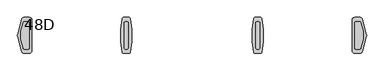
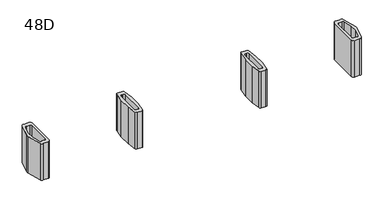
"""IFC4 building model written with IfcOpenShell, lengths in millimetres: furniture geometry, Coalesse_AM_Table_Conference_ETable2_SoftRadiused_22ft_FourBase : 48D."""

from ifc_helpers import new_model, si_unit, frame, origin, place, context, project, spatial, polyline, circle_curve, source, transform, mapped, element, save
from ifc_brep_helpers import plane_surface, cylinder_surface, revolved_surface, advanced_brep


def furniture_48d_12ac701e(model_context):
    return source(origin(), model_context, "Body", "AdvancedBrep", [
        advanced_brep(
        [(1153.31875, 206.375, 3.175), (1127.91875, 231.775, 3.175), (1107.28125, 231.775, 3.175), (1081.88125, 206.375, 3.175), (1081.88125, -206.375, 3.175), (1107.28125, -231.775, 3.175), (1127.91875, -231.775, 3.175), (1153.31875, -206.375, 3.175), (1056.48125, 206.375, 0.0), (1107.28125, 257.175, 0.0), (1127.91875, 257.175, 0.0), (1178.71875, 206.375, 0.0), (1178.71875, -206.375, 0.0), (1127.91875, -257.175, 0.0), (1107.28125, -257.175, 0.0), (1056.48125, -206.375, 0.0), (1056.48125, -206.375, 3.175), (1056.48125, 206.375, 3.175), (1107.28125, -257.175, 3.175), (1127.91875, -257.175, 3.175), (1178.71875, -206.375, 3.175), (1178.71875, 206.375, 3.175), (1127.91875, 257.175, 3.175), (1107.28125, 257.175, 3.175), (1024.9784026, 106.2976848, 698.5), (1024.73125, 102.7629613, 698.5), (1024.73125, -102.7629613, 698.5), (1024.9784026, -106.2976848, 698.5), (1049.8011625, -282.9347235, 698.5), (1074.9540098, -304.8, 698.5), (1160.2459902, -304.8, 698.5), (1185.3988375, -282.9347235, 698.5), (1210.2215974, -106.2976848, 698.5), (1210.46875, -102.7629613, 698.5), (1210.46875, 102.7629613, 698.5), (1210.2215974, 106.2976848, 698.5), (1185.3988375, 282.9347235, 698.5), (1160.2459902, 304.8, 698.5), (1074.9540098, 304.8, 698.5), (1049.8011625, 282.9347235, 698.5), (1127.91875, 231.775, 698.5), (1153.31875, 206.375, 698.5), (1153.31875, -206.375, 698.5), (1127.91875, -231.775, 698.5), (1107.28125, -231.775, 698.5), (1081.88125, -206.375, 698.5), (1081.88125, 206.375, 698.5), (1107.28125, 231.775, 698.5), (1024.9784026, 106.2976848, 3.175), (1049.8011625, 282.9347235, 3.175), (1074.9540098, 304.8, 3.175), (1160.2459902, 304.8, 3.175), (1185.3988375, 282.9347235, 3.175), (1210.2215974, 106.2976848, 3.175), (1210.46875, 102.7629613, 3.175), (1210.46875, -102.7629613, 3.175), (1210.2215974, -106.2976848, 3.175), (1185.3988375, -282.9347235, 3.175), (1160.2459902, -304.8, 3.175), (1074.9540098, -304.8, 3.175), (1049.8011625, -282.9347235, 3.175), (1024.9784026, -106.2976848, 3.175), (1024.73125, -102.7629613, 3.175), (1024.73125, 102.7629613, 3.175)],
        [
            (0, 1, circle_curve(frame((1127.91875, 206.375, 3.175), z_axis=(0.0, 0.0, 1.0), x_axis=(1.0, 0.0, 0.0)), 25.4)),
            (1, 2),
            (2, 3, circle_curve(frame((1107.28125, 206.375, 3.175), z_axis=(0.0, 0.0, 1.0), x_axis=(1.0, 0.0, 0.0)), 25.4)),
            (3, 4),
            (4, 5, circle_curve(frame((1107.28125, -206.375, 3.175), z_axis=(0.0, 0.0, 1.0), x_axis=(1.0, 0.0, 0.0)), 25.4)),
            (5, 6),
            (6, 7, circle_curve(frame((1127.91875, -206.375, 3.175), z_axis=(0.0, 0.0, 1.0), x_axis=(1.0, 0.0, 0.0)), 25.4)),
            (7, 0),
            (8, 9, circle_curve(frame((1107.28125, 206.375, 0.0), z_axis=(0.0, 0.0, -1.0), x_axis=(1.0, 0.0, 0.0)), 50.8)),
            (9, 10),
            (10, 11, circle_curve(frame((1127.91875, 206.375, 0.0), z_axis=(0.0, 0.0, -1.0), x_axis=(1.0, 0.0, 0.0)), 50.8)),
            (11, 12),
            (12, 13, circle_curve(frame((1127.91875, -206.375, 0.0), z_axis=(0.0, 0.0, -1.0), x_axis=(1.0, 0.0, 0.0)), 50.8)),
            (13, 14),
            (14, 15, circle_curve(frame((1107.28125, -206.375, 0.0), z_axis=(0.0, 0.0, -1.0), x_axis=(1.0, 0.0, 0.0)), 50.8)),
            (15, 8),
            (15, 16),
            (16, 17),
            (17, 8),
            (14, 18),
            (18, 16, circle_curve(frame((1107.28125, -206.375, 3.175), z_axis=(0.0, 0.0, -1.0), x_axis=(1.0, 0.0, 0.0)), 50.8)),
            (13, 19),
            (19, 18),
            (12, 20),
            (20, 19, circle_curve(frame((1127.91875, -206.375, 3.175), z_axis=(0.0, 0.0, -1.0), x_axis=(1.0, 0.0, 0.0)), 50.8)),
            (11, 21),
            (21, 20),
            (10, 22),
            (22, 21, circle_curve(frame((1127.91875, 206.375, 3.175), z_axis=(0.0, 0.0, -1.0), x_axis=(1.0, 0.0, 0.0)), 50.8)),
            (9, 23),
            (23, 22),
            (17, 23, circle_curve(frame((1107.28125, 206.375, 3.175), z_axis=(0.0, 0.0, -1.0), x_axis=(1.0, 0.0, 0.0)), 50.8)),
            (24, 25, circle_curve(frame((1050.13125, 102.7629613, 698.5), z_axis=(0.0, 0.0, 1.0), x_axis=(1.0, 0.0, 0.0)), 25.4)),
            (25, 26),
            (26, 27, circle_curve(frame((1050.13125, -102.7629613, 698.5), z_axis=(0.0, 0.0, 1.0), x_axis=(1.0, 0.0, 0.0)), 25.4)),
            (27, 28),
            (28, 29, circle_curve(frame((1074.9540098, -279.4, 698.5), z_axis=(0.0, 0.0, 1.0), x_axis=(1.0, 0.0, 0.0)), 25.4)),
            (29, 30),
            (30, 31, circle_curve(frame((1160.2459902, -279.4, 698.5), z_axis=(0.0, 0.0, 1.0), x_axis=(1.0, 0.0, 0.0)), 25.4)),
            (31, 32),
            (32, 33, circle_curve(frame((1185.06875, -102.7629613, 698.5), z_axis=(0.0, 0.0, 1.0), x_axis=(1.0, 0.0, 0.0)), 25.4)),
            (33, 34),
            (34, 35, circle_curve(frame((1185.06875, 102.7629613, 698.5), z_axis=(0.0, 0.0, 1.0), x_axis=(1.0, 0.0, 0.0)), 25.4)),
            (35, 36),
            (36, 37, circle_curve(frame((1160.2459902, 279.4, 698.5), z_axis=(0.0, 0.0, 1.0), x_axis=(1.0, 0.0, 0.0)), 25.4)),
            (37, 38),
            (38, 39, circle_curve(frame((1074.9540098, 279.4, 698.5), z_axis=(0.0, 0.0, 1.0), x_axis=(1.0, 0.0, 0.0)), 25.4)),
            (39, 24),
            (40, 41, circle_curve(frame((1127.91875, 206.375, 698.5), z_axis=(0.0, 0.0, -1.0), x_axis=(1.0, 0.0, 0.0)), 25.4)),
            (41, 42),
            (42, 43, circle_curve(frame((1127.91875, -206.375, 698.5), z_axis=(0.0, 0.0, -1.0), x_axis=(1.0, 0.0, 0.0)), 25.4)),
            (43, 44),
            (44, 45, circle_curve(frame((1107.28125, -206.375, 698.5), z_axis=(0.0, 0.0, -1.0), x_axis=(1.0, 0.0, 0.0)), 25.4)),
            (45, 46),
            (46, 47, circle_curve(frame((1107.28125, 206.375, 698.5), z_axis=(0.0, 0.0, -1.0), x_axis=(1.0, 0.0, 0.0)), 25.4)),
            (47, 40),
            (48, 49),
            (49, 50, circle_curve(frame((1074.9540098, 279.4, 3.175), z_axis=(0.0, 0.0, -1.0), x_axis=(1.0, 0.0, 0.0)), 25.4)),
            (50, 51),
            (51, 52, circle_curve(frame((1160.2459902, 279.4, 3.175), z_axis=(0.0, 0.0, -1.0), x_axis=(1.0, 0.0, 0.0)), 25.4)),
            (52, 53),
            (53, 54, circle_curve(frame((1185.06875, 102.7629613, 3.175), z_axis=(0.0, 0.0, -1.0), x_axis=(1.0, 0.0, 0.0)), 25.4)),
            (54, 55),
            (55, 56, circle_curve(frame((1185.06875, -102.7629613, 3.175), z_axis=(0.0, 0.0, -1.0), x_axis=(1.0, 0.0, 0.0)), 25.4)),
            (56, 57),
            (57, 58, circle_curve(frame((1160.2459902, -279.4, 3.175), z_axis=(0.0, 0.0, -1.0), x_axis=(1.0, 0.0, 0.0)), 25.4)),
            (58, 59),
            (59, 60, circle_curve(frame((1074.9540098, -279.4, 3.175), z_axis=(0.0, 0.0, -1.0), x_axis=(1.0, 0.0, 0.0)), 25.4)),
            (60, 61),
            (61, 62, circle_curve(frame((1050.13125, -102.7629613, 3.175), z_axis=(0.0, 0.0, -1.0), x_axis=(1.0, 0.0, 0.0)), 25.4)),
            (62, 63),
            (63, 48, circle_curve(frame((1050.13125, 102.7629613, 3.175), z_axis=(0.0, 0.0, -1.0), x_axis=(1.0, 0.0, 0.0)), 25.4)),
            (24, 48),
            (63, 25),
            (62, 26),
            (61, 27),
            (60, 28),
            (59, 29),
            (58, 30),
            (57, 31),
            (56, 32),
            (55, 33),
            (54, 34),
            (53, 35),
            (52, 36),
            (51, 37),
            (50, 38),
            (49, 39),
            (40, 1),
            (0, 41),
            (7, 42),
            (6, 43),
            (5, 44),
            (4, 45),
            (3, 46),
            (2, 47),
        ],
        [
            plane_surface(frame((1056.48125, -206.375, 3.175), z_axis=(0.0, 0.0, 1.0), x_axis=(0.0, -1.0, 0.0))),
            plane_surface(frame((1056.48125, -206.375, 0.0), z_axis=(0.0, 0.0, -1.0), x_axis=(0.0, 1.0, 0.0))),
            plane_surface(frame((1056.48125, 206.375, 3.175), z_axis=(-1.0, 0.0, 0.0), x_axis=(0.0, 0.0, -1.0))),
            cylinder_surface(frame((1107.28125, -206.375, 0.0), z_axis=(0.0, 0.0, 1.0), x_axis=(1.0, 0.0, 0.0)), 50.8),
            plane_surface(frame((1107.28125, -257.175, 3.175), z_axis=(0.0, -1.0, 0.0), x_axis=(0.0, 0.0, -1.0))),
            cylinder_surface(frame((1127.91875, -206.375, 0.0), z_axis=(0.0, 0.0, 1.0), x_axis=(1.0, 0.0, 0.0)), 50.8),
            plane_surface(frame((1178.71875, -206.375, 3.175), z_axis=(1.0, 0.0, 0.0), x_axis=(0.0, 0.0, -1.0))),
            cylinder_surface(frame((1127.91875, 206.375, 0.0), z_axis=(0.0, 0.0, 1.0), x_axis=(1.0, 0.0, 0.0)), 50.8),
            plane_surface(frame((1127.91875, 257.175, 3.175), z_axis=(0.0, 1.0, 0.0), x_axis=(0.0, 0.0, -1.0))),
            cylinder_surface(frame((1107.28125, 206.375, 0.0), z_axis=(0.0, 0.0, 1.0), x_axis=(1.0, 0.0, 0.0)), 50.8),
            plane_surface(frame((1075.53125, 102.7629613, 698.5), z_axis=(0.0, 0.0, 1.0), x_axis=(0.0, 1.0, 0.0))),
            plane_surface(frame((1075.53125, 102.7629613, 3.175), z_axis=(0.0, 0.0, -1.0), x_axis=(0.0, -1.0, 0.0))),
            cylinder_surface(frame((1050.13125, 102.7629613, 3.175), z_axis=(0.0, 0.0, 1.0), x_axis=(1.0, 0.0, 0.0)), 25.4),
            plane_surface(frame((1024.73125, 102.7629613, 698.5), z_axis=(-1.0, 0.0, 0.0), x_axis=(0.0, 0.0, -1.0))),
            cylinder_surface(frame((1050.13125, -102.7629613, 3.175), z_axis=(0.0, 0.0, 1.0), x_axis=(1.0, 0.0, 0.0)), 25.4),
            plane_surface(frame((1024.9784026, -106.2976848, 698.5), z_axis=(-0.9902695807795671, -0.13916234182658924, 0.0), x_axis=(0.0, 0.0, -1.0))),
            cylinder_surface(frame((1074.9540098, -279.4, 3.175), z_axis=(0.0, 0.0, 1.0), x_axis=(1.0, 0.0, 0.0)), 25.4),
            plane_surface(frame((1074.9540098, -304.8, 698.5), z_axis=(0.0, -1.0, 0.0), x_axis=(0.0, 0.0, -1.0))),
            cylinder_surface(frame((1160.2459902, -279.4, 3.175), z_axis=(0.0, 0.0, 1.0), x_axis=(1.0, 0.0, 0.0)), 25.4),
            plane_surface(frame((1185.3988375, -282.9347235, 698.5), z_axis=(0.9902695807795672, -0.13916234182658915, 0.0), x_axis=(0.0, 0.0, -1.0))),
            cylinder_surface(frame((1185.06875, -102.7629613, 3.175), z_axis=(0.0, 0.0, 1.0), x_axis=(1.0, 0.0, 0.0)), 25.4),
            plane_surface(frame((1210.46875, -102.7629613, 698.5), z_axis=(1.0, 0.0, 0.0), x_axis=(0.0, 0.0, -1.0))),
            cylinder_surface(frame((1185.06875, 102.7629613, 3.175), z_axis=(0.0, 0.0, 1.0), x_axis=(1.0, 0.0, 0.0)), 25.4),
            plane_surface(frame((1210.2215974, 106.2976848, 698.5), z_axis=(0.9902695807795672, 0.1391623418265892, 0.0), x_axis=(0.0, 0.0, -1.0))),
            cylinder_surface(frame((1160.2459902, 279.4, 3.175), z_axis=(0.0, 0.0, 1.0), x_axis=(1.0, 0.0, 0.0)), 25.4),
            plane_surface(frame((1160.2459902, 304.8, 698.5), z_axis=(0.0, 1.0, 0.0), x_axis=(0.0, 0.0, -1.0))),
            cylinder_surface(frame((1074.9540098, 279.4, 3.175), z_axis=(0.0, 0.0, 1.0), x_axis=(1.0, 0.0, 0.0)), 25.4),
            plane_surface(frame((1049.8011625, 282.9347235, 698.5), z_axis=(-0.9902695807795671, 0.13916234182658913, 0.0), x_axis=(0.0, 0.0, -1.0))),
            revolved_surface(polyline([(1153.3187500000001, 206.375, 3.175), (1153.3187500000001, 206.375, 698.5)]), (1127.91875, 206.375, 0.0), (0.0, 0.0, -1.0)),
            plane_surface(frame((1153.31875, 206.375, 698.5), z_axis=(-1.0, 0.0, 0.0), x_axis=(0.0, 0.0, -1.0))),
            revolved_surface(polyline([(1153.3187500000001, -206.375, 3.175), (1153.3187500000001, -206.375, 698.5)]), (1127.91875, -206.375, 0.0), (0.0, 0.0, -1.0)),
            plane_surface(frame((1127.91875, -231.775, 698.5), z_axis=(0.0, 1.0, 0.0), x_axis=(0.0, 0.0, -1.0))),
            revolved_surface(polyline([(1132.68125, -206.375, 3.175), (1132.68125, -206.375, 698.5)]), (1107.28125, -206.375, 0.0), (0.0, 0.0, -1.0)),
            plane_surface(frame((1081.88125, -206.375, 698.5), z_axis=(1.0, 0.0, 0.0), x_axis=(0.0, 0.0, -1.0))),
            revolved_surface(polyline([(1132.68125, 206.375, 3.175), (1132.68125, 206.375, 698.5)]), (1107.28125, 206.375, 0.0), (0.0, 0.0, -1.0)),
            plane_surface(frame((1107.28125, 231.775, 698.5), z_axis=(0.0, -1.0, 0.0), x_axis=(0.0, 0.0, -1.0))),
        ],
        [
            (0, [[1, 2, 3, 4, 5, 6, 7, 8]]),
            (1, [[9, 10, 11, 12, 13, 14, 15, 16]]),
            (2, [[-16, 17, 18, 19]]),
            (3, [[-15, 20, 21, -17]]),
            (4, [[-14, 22, 23, -20]]),
            (5, [[-13, 24, 25, -22]]),
            (6, [[-12, 26, 27, -24]]),
            (7, [[-11, 28, 29, -26]]),
            (8, [[-10, 30, 31, -28]]),
            (9, [[-9, -19, 32, -30]]),
            (10, [[33, 34, 35, 36, 37, 38, 39, 40, 41, 42, 43, 44, 45, 46, 47, 48], [49, 50, 51, 52, 53, 54, 55, 56]]),
            (11, [[57, 58, 59, 60, 61, 62, 63, 64, 65, 66, 67, 68, 69, 70, 71, 72], [-18, -21, -23, -25, -27, -29, -31, -32]]),
            (12, [[-33, 73, -72, 74]]),
            (13, [[-34, -74, -71, 75]]),
            (14, [[-35, -75, -70, 76]]),
            (15, [[-36, -76, -69, 77]]),
            (16, [[-37, -77, -68, 78]]),
            (17, [[-38, -78, -67, 79]]),
            (18, [[-39, -79, -66, 80]]),
            (19, [[-40, -80, -65, 81]]),
            (20, [[-41, -81, -64, 82]]),
            (21, [[-42, -82, -63, 83]]),
            (22, [[-43, -83, -62, 84]]),
            (23, [[-44, -84, -61, 85]]),
            (24, [[-45, -85, -60, 86]]),
            (25, [[-46, -86, -59, 87]]),
            (26, [[-47, -87, -58, 88]]),
            (27, [[-48, -88, -57, -73]]),
            (28, [[-49, 89, -1, 90]]),
            (29, [[-50, -90, -8, 91]]),
            (30, [[-51, -91, -7, 92]]),
            (31, [[-52, -92, -6, 93]]),
            (32, [[-53, -93, -5, 94]]),
            (33, [[-54, -94, -4, 95]]),
            (34, [[-55, -95, -3, 96]]),
            (35, [[-56, -96, -2, -89]]),
        ],
    ),
        advanced_brep(
        [(-1081.88125, 206.375, 3.175), (-1107.28125, 231.775, 3.175), (-1127.91875, 231.775, 3.175), (-1153.31875, 206.375, 3.175), (-1153.31875, -206.375, 3.175), (-1127.91875, -231.775, 3.175), (-1107.28125, -231.775, 3.175), (-1081.88125, -206.375, 3.175), (-1178.71875, 206.375, 0.0), (-1127.91875, 257.175, 0.0), (-1107.28125, 257.175, 0.0), (-1056.48125, 206.375, 0.0), (-1056.48125, -206.375, 0.0), (-1107.28125, -257.175, 0.0), (-1127.91875, -257.175, 0.0), (-1178.71875, -206.375, 0.0), (-1178.71875, -206.375, 3.175), (-1178.71875, 206.375, 3.175), (-1127.91875, -257.175, 3.175), (-1107.28125, -257.175, 3.175), (-1056.48125, -206.375, 3.175), (-1056.48125, 206.375, 3.175), (-1107.28125, 257.175, 3.175), (-1127.91875, 257.175, 3.175), (-1210.2215974, 106.2976848, 698.5), (-1210.46875, 102.7629613, 698.5), (-1210.46875, -102.7629613, 698.5), (-1210.2215974, -106.2976848, 698.5), (-1185.3988375, -282.9347235, 698.5), (-1160.2459902, -304.8, 698.5), (-1074.9540098, -304.8, 698.5), (-1049.8011625, -282.9347235, 698.5), (-1024.9784026, -106.2976848, 698.5), (-1024.73125, -102.7629613, 698.5), (-1024.73125, 102.7629613, 698.5), (-1024.9784026, 106.2976848, 698.5), (-1049.8011625, 282.9347235, 698.5), (-1074.9540098, 304.8, 698.5), (-1160.2459902, 304.8, 698.5), (-1185.3988375, 282.9347235, 698.5), (-1107.28125, 231.775, 698.5), (-1081.88125, 206.375, 698.5), (-1081.88125, -206.375, 698.5), (-1107.28125, -231.775, 698.5), (-1127.91875, -231.775, 698.5), (-1153.31875, -206.375, 698.5), (-1153.31875, 206.375, 698.5), (-1127.91875, 231.775, 698.5), (-1210.2215974, 106.2976848, 3.175), (-1185.3988375, 282.9347235, 3.175), (-1160.2459902, 304.8, 3.175), (-1074.9540098, 304.8, 3.175), (-1049.8011625, 282.9347235, 3.175), (-1024.9784026, 106.2976848, 3.175), (-1024.73125, 102.7629613, 3.175), (-1024.73125, -102.7629613, 3.175), (-1024.9784026, -106.2976848, 3.175), (-1049.8011625, -282.9347235, 3.175), (-1074.9540098, -304.8, 3.175), (-1160.2459902, -304.8, 3.175), (-1185.3988375, -282.9347235, 3.175), (-1210.2215974, -106.2976848, 3.175), (-1210.46875, -102.7629613, 3.175), (-1210.46875, 102.7629613, 3.175)],
        [
            (0, 1, circle_curve(frame((-1107.28125, 206.375, 3.175), z_axis=(0.0, 0.0, 1.0), x_axis=(1.0, 0.0, 0.0)), 25.4)),
            (1, 2),
            (2, 3, circle_curve(frame((-1127.91875, 206.375, 3.175), z_axis=(0.0, 0.0, 1.0), x_axis=(1.0, 0.0, 0.0)), 25.4)),
            (3, 4),
            (4, 5, circle_curve(frame((-1127.91875, -206.375, 3.175), z_axis=(0.0, 0.0, 1.0), x_axis=(1.0, 0.0, 0.0)), 25.4)),
            (5, 6),
            (6, 7, circle_curve(frame((-1107.28125, -206.375, 3.175), z_axis=(0.0, 0.0, 1.0), x_axis=(1.0, 0.0, 0.0)), 25.4)),
            (7, 0),
            (8, 9, circle_curve(frame((-1127.91875, 206.375, 0.0), z_axis=(0.0, 0.0, -1.0), x_axis=(1.0, 0.0, 0.0)), 50.8)),
            (9, 10),
            (10, 11, circle_curve(frame((-1107.28125, 206.375, 0.0), z_axis=(0.0, 0.0, -1.0), x_axis=(1.0, 0.0, 0.0)), 50.8)),
            (11, 12),
            (12, 13, circle_curve(frame((-1107.28125, -206.375, 0.0), z_axis=(0.0, 0.0, -1.0), x_axis=(1.0, 0.0, 0.0)), 50.8)),
            (13, 14),
            (14, 15, circle_curve(frame((-1127.91875, -206.375, 0.0), z_axis=(0.0, 0.0, -1.0), x_axis=(1.0, 0.0, 0.0)), 50.8)),
            (15, 8),
            (15, 16),
            (16, 17),
            (17, 8),
            (14, 18),
            (18, 16, circle_curve(frame((-1127.91875, -206.375, 3.175), z_axis=(0.0, 0.0, -1.0), x_axis=(1.0, 0.0, 0.0)), 50.8)),
            (13, 19),
            (19, 18),
            (12, 20),
            (20, 19, circle_curve(frame((-1107.28125, -206.375, 3.175), z_axis=(0.0, 0.0, -1.0), x_axis=(1.0, 0.0, 0.0)), 50.8)),
            (11, 21),
            (21, 20),
            (10, 22),
            (22, 21, circle_curve(frame((-1107.28125, 206.375, 3.175), z_axis=(0.0, 0.0, -1.0), x_axis=(1.0, 0.0, 0.0)), 50.8)),
            (9, 23),
            (23, 22),
            (17, 23, circle_curve(frame((-1127.91875, 206.375, 3.175), z_axis=(0.0, 0.0, -1.0), x_axis=(1.0, 0.0, 0.0)), 50.8)),
            (24, 25, circle_curve(frame((-1185.06875, 102.7629613, 698.5), z_axis=(0.0, 0.0, 1.0), x_axis=(1.0, 0.0, 0.0)), 25.4)),
            (25, 26),
            (26, 27, circle_curve(frame((-1185.06875, -102.7629613, 698.5), z_axis=(0.0, 0.0, 1.0), x_axis=(1.0, 0.0, 0.0)), 25.4)),
            (27, 28),
            (28, 29, circle_curve(frame((-1160.2459902, -279.4, 698.5), z_axis=(0.0, 0.0, 1.0), x_axis=(1.0, 0.0, 0.0)), 25.4)),
            (29, 30),
            (30, 31, circle_curve(frame((-1074.9540098, -279.4, 698.5), z_axis=(0.0, 0.0, 1.0), x_axis=(1.0, 0.0, 0.0)), 25.4)),
            (31, 32),
            (32, 33, circle_curve(frame((-1050.13125, -102.7629613, 698.5), z_axis=(0.0, 0.0, 1.0), x_axis=(1.0, 0.0, 0.0)), 25.4)),
            (33, 34),
            (34, 35, circle_curve(frame((-1050.13125, 102.7629613, 698.5), z_axis=(0.0, 0.0, 1.0), x_axis=(1.0, 0.0, 0.0)), 25.4)),
            (35, 36),
            (36, 37, circle_curve(frame((-1074.9540098, 279.4, 698.5), z_axis=(0.0, 0.0, 1.0), x_axis=(1.0, 0.0, 0.0)), 25.4)),
            (37, 38),
            (38, 39, circle_curve(frame((-1160.2459902, 279.4, 698.5), z_axis=(0.0, 0.0, 1.0), x_axis=(1.0, 0.0, 0.0)), 25.4)),
            (39, 24),
            (40, 41, circle_curve(frame((-1107.28125, 206.375, 698.5), z_axis=(0.0, 0.0, -1.0), x_axis=(1.0, 0.0, 0.0)), 25.4)),
            (41, 42),
            (42, 43, circle_curve(frame((-1107.28125, -206.375, 698.5), z_axis=(0.0, 0.0, -1.0), x_axis=(1.0, 0.0, 0.0)), 25.4)),
            (43, 44),
            (44, 45, circle_curve(frame((-1127.91875, -206.375, 698.5), z_axis=(0.0, 0.0, -1.0), x_axis=(1.0, 0.0, 0.0)), 25.4)),
            (45, 46),
            (46, 47, circle_curve(frame((-1127.91875, 206.375, 698.5), z_axis=(0.0, 0.0, -1.0), x_axis=(1.0, 0.0, 0.0)), 25.4)),
            (47, 40),
            (48, 49),
            (49, 50, circle_curve(frame((-1160.2459902, 279.4, 3.175), z_axis=(0.0, 0.0, -1.0), x_axis=(1.0, 0.0, 0.0)), 25.4)),
            (50, 51),
            (51, 52, circle_curve(frame((-1074.9540098, 279.4, 3.175), z_axis=(0.0, 0.0, -1.0), x_axis=(1.0, 0.0, 0.0)), 25.4)),
            (52, 53),
            (53, 54, circle_curve(frame((-1050.13125, 102.7629613, 3.175), z_axis=(0.0, 0.0, -1.0), x_axis=(1.0, 0.0, 0.0)), 25.4)),
            (54, 55),
            (55, 56, circle_curve(frame((-1050.13125, -102.7629613, 3.175), z_axis=(0.0, 0.0, -1.0), x_axis=(1.0, 0.0, 0.0)), 25.4)),
            (56, 57),
            (57, 58, circle_curve(frame((-1074.9540098, -279.4, 3.175), z_axis=(0.0, 0.0, -1.0), x_axis=(1.0, 0.0, 0.0)), 25.4)),
            (58, 59),
            (59, 60, circle_curve(frame((-1160.2459902, -279.4, 3.175), z_axis=(0.0, 0.0, -1.0), x_axis=(1.0, 0.0, 0.0)), 25.4)),
            (60, 61),
            (61, 62, circle_curve(frame((-1185.06875, -102.7629613, 3.175), z_axis=(0.0, 0.0, -1.0), x_axis=(1.0, 0.0, 0.0)), 25.4)),
            (62, 63),
            (63, 48, circle_curve(frame((-1185.06875, 102.7629613, 3.175), z_axis=(0.0, 0.0, -1.0), x_axis=(1.0, 0.0, 0.0)), 25.4)),
            (24, 48),
            (63, 25),
            (62, 26),
            (61, 27),
            (60, 28),
            (59, 29),
            (58, 30),
            (57, 31),
            (56, 32),
            (55, 33),
            (54, 34),
            (53, 35),
            (52, 36),
            (51, 37),
            (50, 38),
            (49, 39),
            (40, 1),
            (0, 41),
            (7, 42),
            (6, 43),
            (5, 44),
            (4, 45),
            (3, 46),
            (2, 47),
        ],
        [
            plane_surface(frame((-1178.71875, -206.375, 3.175), z_axis=(0.0, 0.0, 1.0), x_axis=(0.0, -1.0, 0.0))),
            plane_surface(frame((-1178.71875, -206.375, 0.0), z_axis=(0.0, 0.0, -1.0), x_axis=(0.0, 1.0, 0.0))),
            plane_surface(frame((-1178.71875, 206.375, 3.175), z_axis=(-1.0, 0.0, 0.0), x_axis=(0.0, 0.0, -1.0))),
            cylinder_surface(frame((-1127.91875, -206.375, 0.0), z_axis=(0.0, 0.0, 1.0), x_axis=(1.0, 0.0, 0.0)), 50.8),
            plane_surface(frame((-1127.91875, -257.175, 3.175), z_axis=(0.0, -1.0, 0.0), x_axis=(0.0, 0.0, -1.0))),
            cylinder_surface(frame((-1107.28125, -206.375, 0.0), z_axis=(0.0, 0.0, 1.0), x_axis=(1.0, 0.0, 0.0)), 50.8),
            plane_surface(frame((-1056.48125, -206.375, 3.175), z_axis=(1.0, 0.0, 0.0), x_axis=(0.0, 0.0, -1.0))),
            cylinder_surface(frame((-1107.28125, 206.375, 0.0), z_axis=(0.0, 0.0, 1.0), x_axis=(1.0, 0.0, 0.0)), 50.8),
            plane_surface(frame((-1107.28125, 257.175, 3.175), z_axis=(0.0, 1.0, 0.0), x_axis=(0.0, 0.0, -1.0))),
            cylinder_surface(frame((-1127.91875, 206.375, 0.0), z_axis=(0.0, 0.0, 1.0), x_axis=(1.0, 0.0, 0.0)), 50.8),
            plane_surface(frame((-1159.66875, 102.7629613, 698.5), z_axis=(0.0, 0.0, 1.0), x_axis=(0.0, 1.0, 0.0))),
            plane_surface(frame((-1159.66875, 102.7629613, 3.175), z_axis=(0.0, 0.0, -1.0), x_axis=(0.0, -1.0, 0.0))),
            cylinder_surface(frame((-1185.06875, 102.7629613, 3.175), z_axis=(0.0, 0.0, 1.0), x_axis=(1.0, 0.0, 0.0)), 25.4),
            plane_surface(frame((-1210.46875, 102.7629613, 698.5), z_axis=(-1.0, 0.0, 0.0), x_axis=(0.0, 0.0, -1.0))),
            cylinder_surface(frame((-1185.06875, -102.7629613, 3.175), z_axis=(0.0, 0.0, 1.0), x_axis=(1.0, 0.0, 0.0)), 25.4),
            plane_surface(frame((-1210.2215974, -106.2976848, 698.5), z_axis=(-0.9902695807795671, -0.13916234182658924, 0.0), x_axis=(0.0, 0.0, -1.0))),
            cylinder_surface(frame((-1160.2459902, -279.4, 3.175), z_axis=(0.0, 0.0, 1.0), x_axis=(1.0, 0.0, 0.0)), 25.4),
            plane_surface(frame((-1160.2459902, -304.8, 698.5), z_axis=(0.0, -1.0, 0.0), x_axis=(0.0, 0.0, -1.0))),
            cylinder_surface(frame((-1074.9540098, -279.4, 3.175), z_axis=(0.0, 0.0, 1.0), x_axis=(1.0, 0.0, 0.0)), 25.4),
            plane_surface(frame((-1049.8011625, -282.9347235, 698.5), z_axis=(0.9902695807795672, -0.13916234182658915, 0.0), x_axis=(0.0, 0.0, -1.0))),
            cylinder_surface(frame((-1050.13125, -102.7629613, 3.175), z_axis=(0.0, 0.0, 1.0), x_axis=(1.0, 0.0, 0.0)), 25.4),
            plane_surface(frame((-1024.73125, -102.7629613, 698.5), z_axis=(1.0, 0.0, 0.0), x_axis=(0.0, 0.0, -1.0))),
            cylinder_surface(frame((-1050.13125, 102.7629613, 3.175), z_axis=(0.0, 0.0, 1.0), x_axis=(1.0, 0.0, 0.0)), 25.4),
            plane_surface(frame((-1024.9784026, 106.2976848, 698.5), z_axis=(0.9902695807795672, 0.1391623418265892, 0.0), x_axis=(0.0, 0.0, -1.0))),
            cylinder_surface(frame((-1074.9540098, 279.4, 3.175), z_axis=(0.0, 0.0, 1.0), x_axis=(1.0, 0.0, 0.0)), 25.4),
            plane_surface(frame((-1074.9540098, 304.8, 698.5), z_axis=(0.0, 1.0, 0.0), x_axis=(0.0, 0.0, -1.0))),
            cylinder_surface(frame((-1160.2459902, 279.4, 3.175), z_axis=(0.0, 0.0, 1.0), x_axis=(1.0, 0.0, 0.0)), 25.4),
            plane_surface(frame((-1185.3988375, 282.9347235, 698.5), z_axis=(-0.9902695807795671, 0.13916234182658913, 0.0), x_axis=(0.0, 0.0, -1.0))),
            revolved_surface(polyline([(-1081.88125, 206.375, 3.175), (-1081.88125, 206.375, 698.5)]), (-1107.28125, 206.375, 0.0), (0.0, 0.0, -1.0)),
            plane_surface(frame((-1081.88125, 206.375, 698.5), z_axis=(-1.0, 0.0, 0.0), x_axis=(0.0, 0.0, -1.0))),
            revolved_surface(polyline([(-1081.88125, -206.375, 3.175), (-1081.88125, -206.375, 698.5)]), (-1107.28125, -206.375, 0.0), (0.0, 0.0, -1.0)),
            plane_surface(frame((-1107.28125, -231.775, 698.5), z_axis=(0.0, 1.0, 0.0), x_axis=(0.0, 0.0, -1.0))),
            revolved_surface(polyline([(-1102.51875, -206.375, 3.175), (-1102.51875, -206.375, 698.5)]), (-1127.91875, -206.375, 0.0), (0.0, 0.0, -1.0)),
            plane_surface(frame((-1153.31875, -206.375, 698.5), z_axis=(1.0, 0.0, 0.0), x_axis=(0.0, 0.0, -1.0))),
            revolved_surface(polyline([(-1102.51875, 206.375, 3.175), (-1102.51875, 206.375, 698.5)]), (-1127.91875, 206.375, 0.0), (0.0, 0.0, -1.0)),
            plane_surface(frame((-1127.91875, 231.775, 698.5), z_axis=(0.0, -1.0, 0.0), x_axis=(0.0, 0.0, -1.0))),
        ],
        [
            (0, [[1, 2, 3, 4, 5, 6, 7, 8]]),
            (1, [[9, 10, 11, 12, 13, 14, 15, 16]]),
            (2, [[-16, 17, 18, 19]]),
            (3, [[-15, 20, 21, -17]]),
            (4, [[-14, 22, 23, -20]]),
            (5, [[-13, 24, 25, -22]]),
            (6, [[-12, 26, 27, -24]]),
            (7, [[-11, 28, 29, -26]]),
            (8, [[-10, 30, 31, -28]]),
            (9, [[-9, -19, 32, -30]]),
            (10, [[33, 34, 35, 36, 37, 38, 39, 40, 41, 42, 43, 44, 45, 46, 47, 48], [49, 50, 51, 52, 53, 54, 55, 56]]),
            (11, [[57, 58, 59, 60, 61, 62, 63, 64, 65, 66, 67, 68, 69, 70, 71, 72], [-18, -21, -23, -25, -27, -29, -31, -32]]),
            (12, [[-33, 73, -72, 74]]),
            (13, [[-34, -74, -71, 75]]),
            (14, [[-35, -75, -70, 76]]),
            (15, [[-36, -76, -69, 77]]),
            (16, [[-37, -77, -68, 78]]),
            (17, [[-38, -78, -67, 79]]),
            (18, [[-39, -79, -66, 80]]),
            (19, [[-40, -80, -65, 81]]),
            (20, [[-41, -81, -64, 82]]),
            (21, [[-42, -82, -63, 83]]),
            (22, [[-43, -83, -62, 84]]),
            (23, [[-44, -84, -61, 85]]),
            (24, [[-45, -85, -60, 86]]),
            (25, [[-46, -86, -59, 87]]),
            (26, [[-47, -87, -58, 88]]),
            (27, [[-48, -88, -57, -73]]),
            (28, [[-49, 89, -1, 90]]),
            (29, [[-50, -90, -8, 91]]),
            (30, [[-51, -91, -7, 92]]),
            (31, [[-52, -92, -6, 93]]),
            (32, [[-53, -93, -5, 94]]),
            (33, [[-54, -94, -4, 95]]),
            (34, [[-55, -95, -3, 96]]),
            (35, [[-56, -96, -2, -89]]),
        ],
    ),
        advanced_brep(
        [(2894.224548, 274.2093613, 698.5), (2854.3579246, 304.8, 698.5), (2765.425, 304.8, 698.5), (2724.15, 263.525, 698.5), (2724.15, -263.525, 698.5), (2765.425, -304.8, 698.5), (2854.3579246, -304.8, 698.5), (2894.224548, -274.2093613, 698.5), (2964.8503901, -10.6333708, 698.5), (2964.8503901, 10.6333708, 698.5), (2762.25, -206.375, 698.5), (2762.25, 206.375, 698.5), (2787.65, 231.775, 698.5), (2846.6608422, 231.775, 698.5), (2871.195338, 212.9490792, 698.5), (2909.8875, 68.54974, 698.5), (2909.8875, -68.54974, 698.5), (2871.195338, -212.9490792, 698.5), (2846.6608422, -231.775, 698.5), (2787.65, -231.775, 698.5), (2894.224548, 274.2093613, 3.175), (2964.8503901, 10.6333708, 3.175), (2964.8503901, -10.6333708, 3.175), (2894.224548, -274.2093613, 3.175), (2854.3579246, -304.8, 3.175), (2765.425, -304.8, 3.175), (2724.15, -263.525, 3.175), (2724.15, 263.525, 3.175), (2765.425, 304.8, 3.175), (2854.3579246, 304.8, 3.175), (2883.4625859, 216.2361187, 3.175), (2846.6608422, 244.475, 3.175), (2787.65, 244.475, 3.175), (2749.55, 206.375, 3.175), (2749.55, -206.375, 3.175), (2787.65, -244.475, 3.175), (2846.6608422, -244.475, 3.175), (2883.4625859, -216.2361187, 3.175), (2922.5875, -70.2217466, 3.175), (2922.5875, 70.2217466, 3.175), (2787.65, -231.775, 3.175), (2762.25, -206.375, 3.175), (2846.6608422, -231.775, 3.175), (2871.195338, -212.9490792, 3.175), (2909.8875, -68.54974, 3.175), (2909.8875, 68.54974, 3.175), (2871.195338, 212.9490792, 3.175), (2846.6608422, 231.775, 3.175), (2787.65, 231.775, 3.175), (2762.25, 206.375, 3.175), (2883.4625859, 216.2361187, 0.0), (2922.5875, 70.2217466, 0.0), (2922.5875, -70.2217466, 0.0), (2883.4625859, -216.2361187, 0.0), (2846.6608422, -244.475, 0.0), (2787.65, -244.475, 0.0), (2749.55, -206.375, 0.0), (2749.55, 206.375, 0.0), (2787.65, 244.475, 0.0), (2846.6608422, 244.475, 0.0)],
        [
            (0, 1, circle_curve(frame((2854.3579246, 263.5270004, 698.5), z_axis=(0.0, 0.0, 1.0), x_axis=(-1.0, 0.0, 0.0)), 41.2729996)),
            (1, 2),
            (2, 3, circle_curve(frame((2765.425, 263.525, 698.5), z_axis=(0.0, 0.0, 1.0), x_axis=(-1.0, 0.0, 0.0)), 41.275)),
            (3, 4),
            (4, 5, circle_curve(frame((2765.425, -263.525, 698.5), z_axis=(0.0, 0.0, 1.0), x_axis=(-1.0, 0.0, 0.0)), 41.275)),
            (5, 6),
            (6, 7, circle_curve(frame((2854.3579246, -263.5270004, 698.5), z_axis=(0.0, 0.0, 1.0), x_axis=(-1.0, 0.0, 0.0)), 41.2729996)),
            (7, 8),
            (8, 9, circle_curve(frame((2925.1665979, 0.0, 698.5), z_axis=(0.0, 0.0, 1.0), x_axis=(-1.0, 0.0, 0.0)), 41.0837187)),
            (9, 0),
            (10, 11),
            (11, 12, circle_curve(frame((2787.65, 206.375, 698.5), z_axis=(0.0, 0.0, -1.0), x_axis=(-1.0, 0.0, 0.0)), 25.4)),
            (12, 13),
            (13, 14, circle_curve(frame((2846.6608422, 206.375, 698.5), z_axis=(0.0, 0.0, -1.0), x_axis=(-1.0, 0.0, 0.0)), 25.4)),
            (14, 15),
            (15, 16),
            (16, 17),
            (17, 18, circle_curve(frame((2846.6608422, -206.375, 698.5), z_axis=(0.0, 0.0, -1.0), x_axis=(-1.0, 0.0, 0.0)), 25.4)),
            (18, 19),
            (19, 10, circle_curve(frame((2787.65, -206.375, 698.5), z_axis=(0.0, 0.0, -1.0), x_axis=(-1.0, 0.0, 0.0)), 25.4)),
            (20, 21),
            (21, 22, circle_curve(frame((2925.1665979, 0.0, 3.175), z_axis=(0.0, 0.0, -1.0), x_axis=(-1.0, 0.0, 0.0)), 41.0837187)),
            (22, 23),
            (23, 24, circle_curve(frame((2854.3579246, -263.5270004, 3.175), z_axis=(0.0, 0.0, -1.0), x_axis=(-1.0, 0.0, 0.0)), 41.2729996)),
            (24, 25),
            (25, 26, circle_curve(frame((2765.425, -263.525, 3.175), z_axis=(0.0, 0.0, -1.0), x_axis=(-1.0, 0.0, 0.0)), 41.275)),
            (26, 27),
            (27, 28, circle_curve(frame((2765.425, 263.525, 3.175), z_axis=(0.0, 0.0, -1.0), x_axis=(-1.0, 0.0, 0.0)), 41.275)),
            (28, 29),
            (29, 20, circle_curve(frame((2854.3579246, 263.5270004, 3.175), z_axis=(0.0, 0.0, -1.0), x_axis=(-1.0, 0.0, 0.0)), 41.2729996)),
            (30, 31, circle_curve(frame((2846.6608422, 206.375, 3.175), z_axis=(0.0, 0.0, 1.0), x_axis=(-1.0, 0.0, 0.0)), 38.1)),
            (31, 32),
            (32, 33, circle_curve(frame((2787.65, 206.375, 3.175), z_axis=(0.0, 0.0, 1.0), x_axis=(-1.0, 0.0, 0.0)), 38.1)),
            (33, 34),
            (34, 35, circle_curve(frame((2787.65, -206.375, 3.175), z_axis=(0.0, 0.0, 1.0), x_axis=(-1.0, 0.0, 0.0)), 38.1)),
            (35, 36),
            (36, 37, circle_curve(frame((2846.6608422, -206.375, 3.175), z_axis=(0.0, 0.0, 1.0), x_axis=(-1.0, 0.0, 0.0)), 38.1)),
            (37, 38),
            (38, 39),
            (39, 30),
            (9, 21),
            (20, 0),
            (8, 22),
            (7, 23),
            (6, 24),
            (5, 25),
            (4, 26),
            (3, 27),
            (2, 28),
            (1, 29),
            (19, 40),
            (40, 41, circle_curve(frame((2787.65, -206.375, 3.175), z_axis=(0.0, 0.0, -1.0), x_axis=(-1.0, 0.0, 0.0)), 25.4)),
            (41, 10),
            (18, 42),
            (42, 40),
            (17, 43),
            (43, 42, circle_curve(frame((2846.6608422, -206.375, 3.175), z_axis=(0.0, 0.0, -1.0), x_axis=(-1.0, 0.0, 0.0)), 25.4)),
            (16, 44),
            (44, 43),
            (15, 45),
            (45, 44),
            (14, 46),
            (46, 45),
            (13, 47),
            (47, 46, circle_curve(frame((2846.6608422, 206.375, 3.175), z_axis=(0.0, 0.0, -1.0), x_axis=(-1.0, 0.0, 0.0)), 25.4)),
            (12, 48),
            (48, 47),
            (11, 49),
            (49, 48, circle_curve(frame((2787.65, 206.375, 3.175), z_axis=(0.0, 0.0, -1.0), x_axis=(-1.0, 0.0, 0.0)), 25.4)),
            (41, 49),
            (50, 51),
            (51, 52),
            (52, 53),
            (53, 54, circle_curve(frame((2846.6608422, -206.375, 0.0), z_axis=(0.0, 0.0, -1.0), x_axis=(-1.0, 0.0, 0.0)), 38.1)),
            (54, 55),
            (55, 56, circle_curve(frame((2787.65, -206.375, 0.0), z_axis=(0.0, 0.0, -1.0), x_axis=(-1.0, 0.0, 0.0)), 38.1)),
            (56, 57),
            (57, 58, circle_curve(frame((2787.65, 206.375, 0.0), z_axis=(0.0, 0.0, -1.0), x_axis=(-1.0, 0.0, 0.0)), 38.1)),
            (58, 59),
            (59, 50, circle_curve(frame((2846.6608422, 206.375, 0.0), z_axis=(0.0, 0.0, -1.0), x_axis=(-1.0, 0.0, 0.0)), 38.1)),
            (50, 30),
            (39, 51),
            (38, 52),
            (37, 53),
            (36, 54),
            (35, 55),
            (34, 56),
            (33, 57),
            (32, 58),
            (31, 59),
        ],
        [
            plane_surface(frame((2964.8374275, 10.6817473, 698.5), z_axis=(0.0, 0.0, 1.0000000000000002), x_axis=(0.25882201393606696, -0.9659250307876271, 0.0))),
            plane_surface(frame((2964.8374275, 10.6817473, 3.175), z_axis=(0.0, 0.0, -1.0000000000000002), x_axis=(-0.25882201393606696, 0.9659250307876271, 0.0))),
            plane_surface(frame((2894.224548, 274.2093613, 698.5), z_axis=(0.9659250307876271, 0.25882201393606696, 0.0), x_axis=(0.0, 0.0, -1.0))),
            cylinder_surface(frame((2925.1665979, 0.0, 3.175), z_axis=(0.0, 0.0, 1.0), x_axis=(-1.0, 0.0, 0.0)), 41.0837187),
            plane_surface(frame((2964.8503901, -10.6333708, 698.5), z_axis=(0.9659250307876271, -0.2588220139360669, 0.0), x_axis=(0.0, 0.0, -1.0))),
            cylinder_surface(frame((2854.3579246, -263.5270004, 3.175), z_axis=(0.0, 0.0, 1.0), x_axis=(-1.0, 0.0, 0.0)), 41.2729996),
            plane_surface(frame((2854.3579246, -304.8, 698.5), z_axis=(0.0, -1.0, 0.0), x_axis=(0.0, 0.0, -1.0))),
            cylinder_surface(frame((2765.425, -263.525, 3.175), z_axis=(0.0, 0.0, 1.0), x_axis=(-1.0, 0.0, 0.0)), 41.275),
            plane_surface(frame((2724.15, -263.525, 698.5), z_axis=(-1.0, 0.0, 0.0), x_axis=(0.0, 0.0, -1.0))),
            cylinder_surface(frame((2765.425, 263.525, 3.175), z_axis=(0.0, 0.0, 1.0), x_axis=(-1.0, 0.0, 0.0)), 41.275),
            plane_surface(frame((2765.425, 304.8, 698.5), z_axis=(0.0, 1.0, 0.0), x_axis=(0.0, 0.0, -1.0))),
            cylinder_surface(frame((2854.3579246, 263.5270004, 3.175), z_axis=(0.0, 0.0, 1.0), x_axis=(-1.0, 0.0, 0.0)), 41.2729996),
            revolved_surface(polyline([(2762.25, -206.375, 3.175), (2762.25, -206.375, 698.5)]), (2787.65, -206.375, 0.0), (0.0, 0.0, -1.0)),
            plane_surface(frame((2787.65, -231.775, 698.5), z_axis=(0.0, 1.0, 0.0), x_axis=(0.0, 0.0, -1.0))),
            revolved_surface(polyline([(2821.2608422, -206.375, 3.175), (2821.2608422, -206.375, 698.5)]), (2846.6608422, -206.375, 0.0), (0.0, 0.0, -1.0)),
            plane_surface(frame((2871.195338, -212.9490792, 698.5), z_axis=(-0.9659250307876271, 0.2588220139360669, 0.0), x_axis=(0.0, 0.0, -1.0))),
            plane_surface(frame((2909.8875, -68.54974, 698.5), z_axis=(-1.0, 0.0, 0.0), x_axis=(0.0, 0.0, -1.0))),
            plane_surface(frame((2909.8875, 68.54974, 698.5), z_axis=(-0.9659250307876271, -0.25882201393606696, 0.0), x_axis=(0.0, 0.0, -1.0))),
            revolved_surface(polyline([(2821.2608422, 206.375, 3.175), (2821.2608422, 206.375, 698.5)]), (2846.6608422, 206.375, 0.0), (0.0, 0.0, -1.0)),
            plane_surface(frame((2846.6608422, 231.775, 698.5), z_axis=(0.0, -1.0, 0.0), x_axis=(0.0, 0.0, -1.0))),
            revolved_surface(polyline([(2762.25, 206.375, 3.175), (2762.25, 206.375, 698.5)]), (2787.65, 206.375, 0.0), (0.0, 0.0, -1.0)),
            plane_surface(frame((2762.25, 206.375, 698.5), z_axis=(1.0, 0.0, 0.0), x_axis=(0.0, 0.0, -1.0))),
            plane_surface(frame((2922.1547479, 71.8367796, 3.175), z_axis=(0.0, 0.0, 1.0), x_axis=(0.25882201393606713, -0.965925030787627, 0.0))),
            plane_surface(frame((2922.1547479, 71.8367796, 0.0), z_axis=(0.0, 0.0, -1.0), x_axis=(-0.25882201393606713, 0.965925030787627, 0.0))),
            plane_surface(frame((2883.4625859, 216.2361187, 3.175), z_axis=(0.965925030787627, 0.25882201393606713, 0.0), x_axis=(0.0, 0.0, -1.0))),
            plane_surface(frame((2922.5875, 70.2217466, 3.175), z_axis=(1.0, 0.0, 0.0), x_axis=(0.0, 0.0, -1.0))),
            plane_surface(frame((2922.5875, -70.2217466, 3.175), z_axis=(0.9659250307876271, -0.2588220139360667, 0.0), x_axis=(0.0, 0.0, -1.0))),
            cylinder_surface(frame((2846.6608422, -206.375, 0.0), z_axis=(0.0, 0.0, 1.0), x_axis=(-1.0, 0.0, 0.0)), 38.1),
            plane_surface(frame((2846.6608422, -244.475, 3.175), z_axis=(0.0, -1.0, 0.0), x_axis=(0.0, 0.0, -1.0))),
            cylinder_surface(frame((2787.65, -206.375, 0.0), z_axis=(0.0, 0.0, 1.0), x_axis=(-1.0, 0.0, 0.0)), 38.1),
            plane_surface(frame((2749.55, -206.375, 3.175), z_axis=(-1.0, 0.0, 0.0), x_axis=(0.0, 0.0, -1.0))),
            cylinder_surface(frame((2787.65, 206.375, 0.0), z_axis=(0.0, 0.0, 1.0), x_axis=(-1.0, 0.0, 0.0)), 38.1),
            plane_surface(frame((2787.65, 244.475, 3.175), z_axis=(0.0, 1.0, 0.0), x_axis=(0.0, 0.0, -1.0))),
            cylinder_surface(frame((2846.6608422, 206.375, 0.0), z_axis=(0.0, 0.0, 1.0), x_axis=(-1.0, 0.0, 0.0)), 38.1),
        ],
        [
            (0, [[1, 2, 3, 4, 5, 6, 7, 8, 9, 10], [11, 12, 13, 14, 15, 16, 17, 18, 19, 20]]),
            (1, [[21, 22, 23, 24, 25, 26, 27, 28, 29, 30], [31, 32, 33, 34, 35, 36, 37, 38, 39, 40]]),
            (2, [[41, -21, 42, -10]]),
            (3, [[43, -22, -41, -9]]),
            (4, [[44, -23, -43, -8]]),
            (5, [[45, -24, -44, -7]]),
            (6, [[46, -25, -45, -6]]),
            (7, [[47, -26, -46, -5]]),
            (8, [[48, -27, -47, -4]]),
            (9, [[49, -28, -48, -3]]),
            (10, [[50, -29, -49, -2]]),
            (11, [[-42, -30, -50, -1]]),
            (12, [[51, 52, 53, -20]]),
            (13, [[54, 55, -51, -19]]),
            (14, [[56, 57, -54, -18]]),
            (15, [[58, 59, -56, -17]]),
            (16, [[60, 61, -58, -16]]),
            (17, [[62, 63, -60, -15]]),
            (18, [[64, 65, -62, -14]]),
            (19, [[66, 67, -64, -13]]),
            (20, [[68, 69, -66, -12]]),
            (21, [[-53, 70, -68, -11]]),
            (22, [[-55, -57, -59, -61, -63, -65, -67, -69, -70, -52]]),
            (23, [[71, 72, 73, 74, 75, 76, 77, 78, 79, 80]]),
            (24, [[81, -40, 82, -71]]),
            (25, [[-82, -39, 83, -72]]),
            (26, [[-83, -38, 84, -73]]),
            (27, [[-84, -37, 85, -74]]),
            (28, [[-85, -36, 86, -75]]),
            (29, [[-86, -35, 87, -76]]),
            (30, [[-87, -34, 88, -77]]),
            (31, [[-88, -33, 89, -78]]),
            (32, [[-89, -32, 90, -79]]),
            (33, [[-90, -31, -81, -80]]),
        ],
    ),
        advanced_brep(
        [(-2894.224548, 274.2093613, 698.5), (-2964.8503901, 10.6333708, 698.5), (-2964.8503901, -10.6333708, 698.5), (-2894.224548, -274.2093613, 698.5), (-2854.3579246, -304.8, 698.5), (-2765.425, -304.8, 698.5), (-2724.15, -263.525, 698.5), (-2724.15, 263.525, 698.5), (-2765.425, 304.8, 698.5), (-2854.3579246, 304.8, 698.5), (-2762.25, -206.375, 698.5), (-2787.65, -231.775, 698.5), (-2846.6608422, -231.775, 698.5), (-2871.195338, -212.9490792, 698.5), (-2909.8875, -68.54974, 698.5), (-2909.8875, 68.54974, 698.5), (-2871.195338, 212.9490792, 698.5), (-2846.6608422, 231.775, 698.5), (-2787.65, 231.775, 698.5), (-2762.25, 206.375, 698.5), (-2894.224548, 274.2093613, 3.175), (-2854.3579246, 304.8, 3.175), (-2765.425, 304.8, 3.175), (-2724.15, 263.525, 3.175), (-2724.15, -263.525, 3.175), (-2765.425, -304.8, 3.175), (-2854.3579246, -304.8, 3.175), (-2894.224548, -274.2093613, 3.175), (-2964.8503901, -10.6333708, 3.175), (-2964.8503901, 10.6333708, 3.175), (-2883.4625859, 216.2361187, 3.175), (-2922.5875, 70.2217466, 3.175), (-2922.5875, -70.2217466, 3.175), (-2883.4625859, -216.2361187, 3.175), (-2846.6608422, -244.475, 3.175), (-2787.65, -244.475, 3.175), (-2749.55, -206.375, 3.175), (-2749.55, 206.375, 3.175), (-2787.65, 244.475, 3.175), (-2846.6608422, 244.475, 3.175), (-2762.25, -206.375, 3.175), (-2787.65, -231.775, 3.175), (-2846.6608422, -231.775, 3.175), (-2871.195338, -212.9490792, 3.175), (-2909.8875, -68.54974, 3.175), (-2909.8875, 68.54974, 3.175), (-2871.195338, 212.9490792, 3.175), (-2846.6608422, 231.775, 3.175), (-2787.65, 231.775, 3.175), (-2762.25, 206.375, 3.175), (-2883.4625859, 216.2361187, 0.0), (-2846.6608422, 244.475, 0.0), (-2787.65, 244.475, 0.0), (-2749.55, 206.375, 0.0), (-2749.55, -206.375, 0.0), (-2787.65, -244.475, 0.0), (-2846.6608422, -244.475, 0.0), (-2883.4625859, -216.2361187, 0.0), (-2922.5875, -70.2217466, 0.0), (-2922.5875, 70.2217466, 0.0)],
        [
            (0, 1),
            (1, 2, circle_curve(frame((-2925.1665979, 0.0, 698.5), z_axis=(0.0, 0.0, 1.0), x_axis=(1.0, 0.0, 0.0)), 41.0837187)),
            (2, 3),
            (3, 4, circle_curve(frame((-2854.3579246, -263.5270004, 698.5), z_axis=(0.0, 0.0, 1.0), x_axis=(1.0, 0.0, 0.0)), 41.2729996)),
            (4, 5),
            (5, 6, circle_curve(frame((-2765.425, -263.525, 698.5), z_axis=(0.0, 0.0, 1.0), x_axis=(1.0, 0.0, 0.0)), 41.275)),
            (6, 7),
            (7, 8, circle_curve(frame((-2765.425, 263.525, 698.5), z_axis=(0.0, 0.0, 1.0), x_axis=(1.0, 0.0, 0.0)), 41.275)),
            (8, 9),
            (9, 0, circle_curve(frame((-2854.3579246, 263.5270004, 698.5), z_axis=(0.0, 0.0, 1.0), x_axis=(1.0, 0.0, 0.0)), 41.2729996)),
            (10, 11, circle_curve(frame((-2787.65, -206.375, 698.5), z_axis=(0.0, 0.0, -1.0), x_axis=(1.0, 0.0, 0.0)), 25.4)),
            (11, 12),
            (12, 13, circle_curve(frame((-2846.6608422, -206.375, 698.5), z_axis=(0.0, 0.0, -1.0), x_axis=(1.0, 0.0, 0.0)), 25.4)),
            (13, 14),
            (14, 15),
            (15, 16),
            (16, 17, circle_curve(frame((-2846.6608422, 206.375, 698.5), z_axis=(0.0, 0.0, -1.0), x_axis=(1.0, 0.0, 0.0)), 25.4)),
            (17, 18),
            (18, 19, circle_curve(frame((-2787.65, 206.375, 698.5), z_axis=(0.0, 0.0, -1.0), x_axis=(1.0, 0.0, 0.0)), 25.4)),
            (19, 10),
            (20, 21, circle_curve(frame((-2854.3579246, 263.5270004, 3.175), z_axis=(0.0, 0.0, -1.0), x_axis=(1.0, 0.0, 0.0)), 41.2729996)),
            (21, 22),
            (22, 23, circle_curve(frame((-2765.425, 263.525, 3.175), z_axis=(0.0, 0.0, -1.0), x_axis=(1.0, 0.0, 0.0)), 41.275)),
            (23, 24),
            (24, 25, circle_curve(frame((-2765.425, -263.525, 3.175), z_axis=(0.0, 0.0, -1.0), x_axis=(1.0, 0.0, 0.0)), 41.275)),
            (25, 26),
            (26, 27, circle_curve(frame((-2854.3579246, -263.5270004, 3.175), z_axis=(0.0, 0.0, -1.0), x_axis=(1.0, 0.0, 0.0)), 41.2729996)),
            (27, 28),
            (28, 29, circle_curve(frame((-2925.1665979, 0.0, 3.175), z_axis=(0.0, 0.0, -1.0), x_axis=(1.0, 0.0, 0.0)), 41.0837187)),
            (29, 20),
            (30, 31),
            (31, 32),
            (32, 33),
            (33, 34, circle_curve(frame((-2846.6608422, -206.375, 3.175), z_axis=(0.0, 0.0, 1.0), x_axis=(1.0, 0.0, 0.0)), 38.1)),
            (34, 35),
            (35, 36, circle_curve(frame((-2787.65, -206.375, 3.175), z_axis=(0.0, 0.0, 1.0), x_axis=(1.0, 0.0, 0.0)), 38.1)),
            (36, 37),
            (37, 38, circle_curve(frame((-2787.65, 206.375, 3.175), z_axis=(0.0, 0.0, 1.0), x_axis=(1.0, 0.0, 0.0)), 38.1)),
            (38, 39),
            (39, 30, circle_curve(frame((-2846.6608422, 206.375, 3.175), z_axis=(0.0, 0.0, 1.0), x_axis=(1.0, 0.0, 0.0)), 38.1)),
            (0, 20),
            (29, 1),
            (28, 2),
            (27, 3),
            (26, 4),
            (25, 5),
            (24, 6),
            (23, 7),
            (22, 8),
            (21, 9),
            (10, 40),
            (40, 41, circle_curve(frame((-2787.65, -206.375, 3.175), z_axis=(0.0, 0.0, -1.0), x_axis=(1.0, 0.0, 0.0)), 25.4)),
            (41, 11),
            (41, 42),
            (42, 12),
            (42, 43, circle_curve(frame((-2846.6608422, -206.375, 3.175), z_axis=(0.0, 0.0, -1.0), x_axis=(1.0, 0.0, 0.0)), 25.4)),
            (43, 13),
            (43, 44),
            (44, 14),
            (44, 45),
            (45, 15),
            (45, 46),
            (46, 16),
            (46, 47, circle_curve(frame((-2846.6608422, 206.375, 3.175), z_axis=(0.0, 0.0, -1.0), x_axis=(1.0, 0.0, 0.0)), 25.4)),
            (47, 17),
            (47, 48),
            (48, 18),
            (48, 49, circle_curve(frame((-2787.65, 206.375, 3.175), z_axis=(0.0, 0.0, -1.0), x_axis=(1.0, 0.0, 0.0)), 25.4)),
            (49, 19),
            (49, 40),
            (50, 51, circle_curve(frame((-2846.6608422, 206.375, 0.0), z_axis=(0.0, 0.0, -1.0), x_axis=(1.0, 0.0, 0.0)), 38.1)),
            (51, 52),
            (52, 53, circle_curve(frame((-2787.65, 206.375, 0.0), z_axis=(0.0, 0.0, -1.0), x_axis=(1.0, 0.0, 0.0)), 38.1)),
            (53, 54),
            (54, 55, circle_curve(frame((-2787.65, -206.375, 0.0), z_axis=(0.0, 0.0, -1.0), x_axis=(1.0, 0.0, 0.0)), 38.1)),
            (55, 56),
            (56, 57, circle_curve(frame((-2846.6608422, -206.375, 0.0), z_axis=(0.0, 0.0, -1.0), x_axis=(1.0, 0.0, 0.0)), 38.1)),
            (57, 58),
            (58, 59),
            (59, 50),
            (59, 31),
            (30, 50),
            (58, 32),
            (57, 33),
            (56, 34),
            (55, 35),
            (54, 36),
            (53, 37),
            (52, 38),
            (51, 39),
        ],
        [
            plane_surface(frame((-2964.8374275, 10.6817473, 698.5), z_axis=(0.0, 0.0, 1.0000000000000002), x_axis=(-0.25882201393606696, -0.9659250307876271, 0.0))),
            plane_surface(frame((-2964.8374275, 10.6817473, 3.175), z_axis=(0.0, 0.0, -1.0000000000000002), x_axis=(0.25882201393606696, 0.9659250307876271, 0.0))),
            plane_surface(frame((-2894.224548, 274.2093613, 698.5), z_axis=(-0.9659250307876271, 0.25882201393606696, 0.0), x_axis=(0.0, 0.0, -1.0))),
            cylinder_surface(frame((-2925.1665979, 0.0, 3.175), z_axis=(0.0, 0.0, 1.0), x_axis=(1.0, 0.0, 0.0)), 41.0837187),
            plane_surface(frame((-2964.8503901, -10.6333708, 698.5), z_axis=(-0.9659250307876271, -0.2588220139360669, 0.0), x_axis=(0.0, 0.0, -1.0))),
            cylinder_surface(frame((-2854.3579246, -263.5270004, 3.175), z_axis=(0.0, 0.0, 1.0), x_axis=(1.0, 0.0, 0.0)), 41.2729996),
            plane_surface(frame((-2854.3579246, -304.8, 698.5), z_axis=(0.0, -1.0, 0.0), x_axis=(0.0, 0.0, -1.0))),
            cylinder_surface(frame((-2765.425, -263.525, 3.175), z_axis=(0.0, 0.0, 1.0), x_axis=(1.0, 0.0, 0.0)), 41.275),
            plane_surface(frame((-2724.15, -263.525, 698.5), z_axis=(1.0, 0.0, 0.0), x_axis=(0.0, 0.0, -1.0))),
            cylinder_surface(frame((-2765.425, 263.525, 3.175), z_axis=(0.0, 0.0, 1.0), x_axis=(1.0, 0.0, 0.0)), 41.275),
            plane_surface(frame((-2765.425, 304.8, 698.5), z_axis=(0.0, 1.0, 0.0), x_axis=(0.0, 0.0, -1.0))),
            cylinder_surface(frame((-2854.3579246, 263.5270004, 3.175), z_axis=(0.0, 0.0, 1.0), x_axis=(1.0, 0.0, 0.0)), 41.2729996),
            revolved_surface(polyline([(-2762.25, -206.375, 3.175), (-2762.25, -206.375, 698.5)]), (-2787.65, -206.375, 0.0), (0.0, 0.0, -1.0)),
            plane_surface(frame((-2787.65, -231.775, 698.5), z_axis=(0.0, 1.0, 0.0), x_axis=(0.0, 0.0, -1.0))),
            revolved_surface(polyline([(-2821.2608422, -206.375, 3.175), (-2821.2608422, -206.375, 698.5)]), (-2846.6608422, -206.375, 0.0), (0.0, 0.0, -1.0)),
            plane_surface(frame((-2871.195338, -212.9490792, 698.5), z_axis=(0.9659250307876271, 0.2588220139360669, 0.0), x_axis=(0.0, 0.0, -1.0))),
            plane_surface(frame((-2909.8875, -68.54974, 698.5), z_axis=(1.0, 0.0, 0.0), x_axis=(0.0, 0.0, -1.0))),
            plane_surface(frame((-2909.8875, 68.54974, 698.5), z_axis=(0.9659250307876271, -0.25882201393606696, 0.0), x_axis=(0.0, 0.0, -1.0))),
            revolved_surface(polyline([(-2821.2608422, 206.375, 3.175), (-2821.2608422, 206.375, 698.5)]), (-2846.6608422, 206.375, 0.0), (0.0, 0.0, -1.0)),
            plane_surface(frame((-2846.6608422, 231.775, 698.5), z_axis=(0.0, -1.0, 0.0), x_axis=(0.0, 0.0, -1.0))),
            revolved_surface(polyline([(-2762.25, 206.375, 3.175), (-2762.25, 206.375, 698.5)]), (-2787.65, 206.375, 0.0), (0.0, 0.0, -1.0)),
            plane_surface(frame((-2762.25, 206.375, 698.5), z_axis=(-1.0, 0.0, 0.0), x_axis=(0.0, 0.0, -1.0))),
            plane_surface(frame((-2922.1547479, 71.8367796, 3.175), z_axis=(0.0, 0.0, 1.0), x_axis=(-0.25882201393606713, -0.965925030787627, 0.0))),
            plane_surface(frame((-2922.1547479, 71.8367796, 0.0), z_axis=(0.0, 0.0, -1.0), x_axis=(0.25882201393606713, 0.965925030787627, 0.0))),
            plane_surface(frame((-2883.4625859, 216.2361187, 3.175), z_axis=(-0.965925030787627, 0.25882201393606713, 0.0), x_axis=(0.0, 0.0, -1.0))),
            plane_surface(frame((-2922.5875, 70.2217466, 3.175), z_axis=(-1.0, 0.0, 0.0), x_axis=(0.0, 0.0, -1.0))),
            plane_surface(frame((-2922.5875, -70.2217466, 3.175), z_axis=(-0.9659250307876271, -0.2588220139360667, 0.0), x_axis=(0.0, 0.0, -1.0))),
            cylinder_surface(frame((-2846.6608422, -206.375, 0.0), z_axis=(0.0, 0.0, 1.0), x_axis=(1.0, 0.0, 0.0)), 38.1),
            plane_surface(frame((-2846.6608422, -244.475, 3.175), z_axis=(0.0, -1.0, 0.0), x_axis=(0.0, 0.0, -1.0))),
            cylinder_surface(frame((-2787.65, -206.375, 0.0), z_axis=(0.0, 0.0, 1.0), x_axis=(1.0, 0.0, 0.0)), 38.1),
            plane_surface(frame((-2749.55, -206.375, 3.175), z_axis=(1.0, 0.0, 0.0), x_axis=(0.0, 0.0, -1.0))),
            cylinder_surface(frame((-2787.65, 206.375, 0.0), z_axis=(0.0, 0.0, 1.0), x_axis=(1.0, 0.0, 0.0)), 38.1),
            plane_surface(frame((-2787.65, 244.475, 3.175), z_axis=(0.0, 1.0, 0.0), x_axis=(0.0, 0.0, -1.0))),
            cylinder_surface(frame((-2846.6608422, 206.375, 0.0), z_axis=(0.0, 0.0, 1.0), x_axis=(1.0, 0.0, 0.0)), 38.1),
        ],
        [
            (0, [[1, 2, 3, 4, 5, 6, 7, 8, 9, 10], [11, 12, 13, 14, 15, 16, 17, 18, 19, 20]]),
            (1, [[21, 22, 23, 24, 25, 26, 27, 28, 29, 30], [31, 32, 33, 34, 35, 36, 37, 38, 39, 40]]),
            (2, [[-1, 41, -30, 42]]),
            (3, [[-2, -42, -29, 43]]),
            (4, [[-3, -43, -28, 44]]),
            (5, [[-4, -44, -27, 45]]),
            (6, [[-5, -45, -26, 46]]),
            (7, [[-6, -46, -25, 47]]),
            (8, [[-7, -47, -24, 48]]),
            (9, [[-8, -48, -23, 49]]),
            (10, [[-9, -49, -22, 50]]),
            (11, [[-10, -50, -21, -41]]),
            (12, [[-11, 51, 52, 53]]),
            (13, [[-12, -53, 54, 55]]),
            (14, [[-13, -55, 56, 57]]),
            (15, [[-14, -57, 58, 59]]),
            (16, [[-15, -59, 60, 61]]),
            (17, [[-16, -61, 62, 63]]),
            (18, [[-17, -63, 64, 65]]),
            (19, [[-18, -65, 66, 67]]),
            (20, [[-19, -67, 68, 69]]),
            (21, [[-20, -69, 70, -51]]),
            (22, [[-52, -70, -68, -66, -64, -62, -60, -58, -56, -54]]),
            (23, [[71, 72, 73, 74, 75, 76, 77, 78, 79, 80]]),
            (24, [[-80, 81, -31, 82]]),
            (25, [[-79, 83, -32, -81]]),
            (26, [[-78, 84, -33, -83]]),
            (27, [[-77, 85, -34, -84]]),
            (28, [[-76, 86, -35, -85]]),
            (29, [[-75, 87, -36, -86]]),
            (30, [[-74, 88, -37, -87]]),
            (31, [[-73, 89, -38, -88]]),
            (32, [[-72, 90, -39, -89]]),
            (33, [[-71, -82, -40, -90]]),
        ],
    ),
    ])


if __name__ == "__main__":
    model = new_model("IFC4")
    model_context = context("Model", 3, world=origin())
    ifc_project = project(units=[si_unit("LENGTHUNIT", "METRE", prefix="MILLI")], contexts=[model_context])
    site = spatial("IfcSite", under=ifc_project)
    building = spatial("IfcBuilding", under=site)
    placement = place(None, origin())
    furniture_48d_shape = furniture_48d_12ac701e(model_context)
    element("IfcFurniture", 1, ObjectType="Coalesse_AM_Table_Conference_ETable2_SoftRadiused_22ft_FourBase : 48D", at=placement, inside=building, context=model_context, shape_type="MappedRepresentation", body=[
        mapped(furniture_48d_shape, transform((0.0, 0.0, 0.0), x_axis=(1.0, 0.0, 0.0), y_axis=(0.0, 1.0, 0.0), z_axis=(0.0, 0.0, 1.0))),
    ])
    save(model, "model.ifc")
